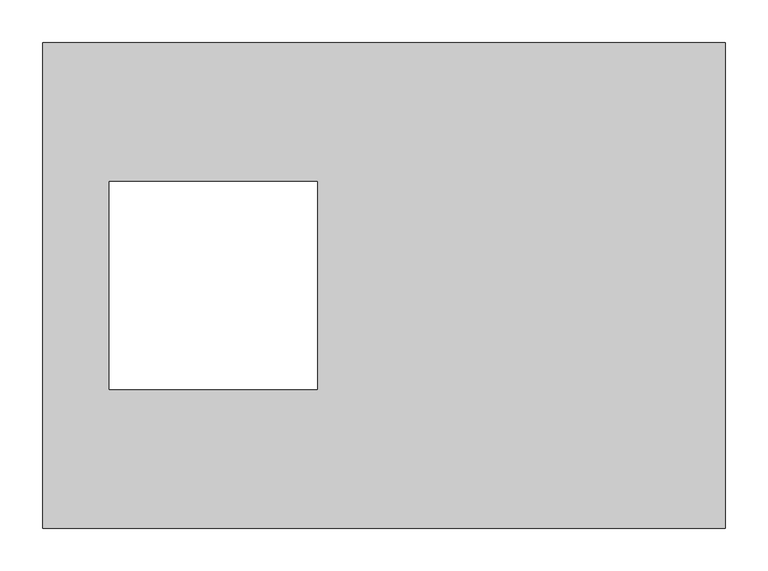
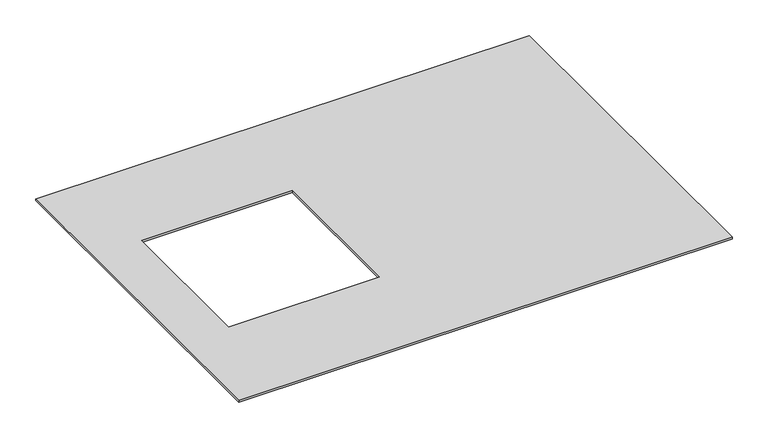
"""IFC4 building model written with IfcOpenShell, lengths in millimetres: proxy geometry, Electrical_Installation_Hager_Cover-Q12-BKA : Electrical_Installation_Hager_Cover-Q12-BKA."""

from ifc_helpers import new_model, si_unit, frame, origin, place, context, project, spatial, polyline, outline, extrude, source, transform, mapped, element, save


def electrical_fixtures_5abaa08a(model_context):
    return source(origin(), model_context, "Body", "SweptSolid", [
        extrude(outline(polyline([(800.0, 284.75), (800.0, -284.75), (0.0, -284.75), (0.0, 284.75), (800.0, 284.75)]), holes=[polyline([(322.0, 122.0), (78.0, 122.0), (78.0, -122.0), (322.0, -122.0), (322.0, 122.0)])]), frame((0.0, 0.0, 10.0), z_axis=(0.0, 0.0, 1.0), x_axis=(1.0, 0.0, 0.0)), (0.0, 0.0, 1.0), 3.0),
    ])


if __name__ == "__main__":
    model = new_model("IFC4")
    model_context = context("Model", 3, world=origin())
    ifc_project = project(units=[si_unit("LENGTHUNIT", "METRE", prefix="MILLI")], contexts=[model_context])
    site = spatial("IfcSite", under=ifc_project)
    building = spatial("IfcBuilding", under=site)
    placement = place(None, origin())
    electrical_fixtures_shape = electrical_fixtures_5abaa08a(model_context)
    element("IfcBuildingElementProxy", 1, Name="Electrical_Installation_Hager_Cover-Q12-BKA : Electrical_Installation_Hager_Cover-Q12-BKA", ObjectType="Electrical_Installation_Hager_Cover-Q12-BKA : Electrical_Installation_Hager_Cover-Q12-BKA", at=placement, inside=building, context=model_context, shape_type="MappedRepresentation", body=[
        mapped(electrical_fixtures_shape, transform((0.0, 0.0, 0.0), x_axis=(1.0, 0.0, 0.0), y_axis=(0.0, 1.0, 0.0), z_axis=(0.0, 0.0, 1.0))),
    ])
    save(model, "model.ifc")
